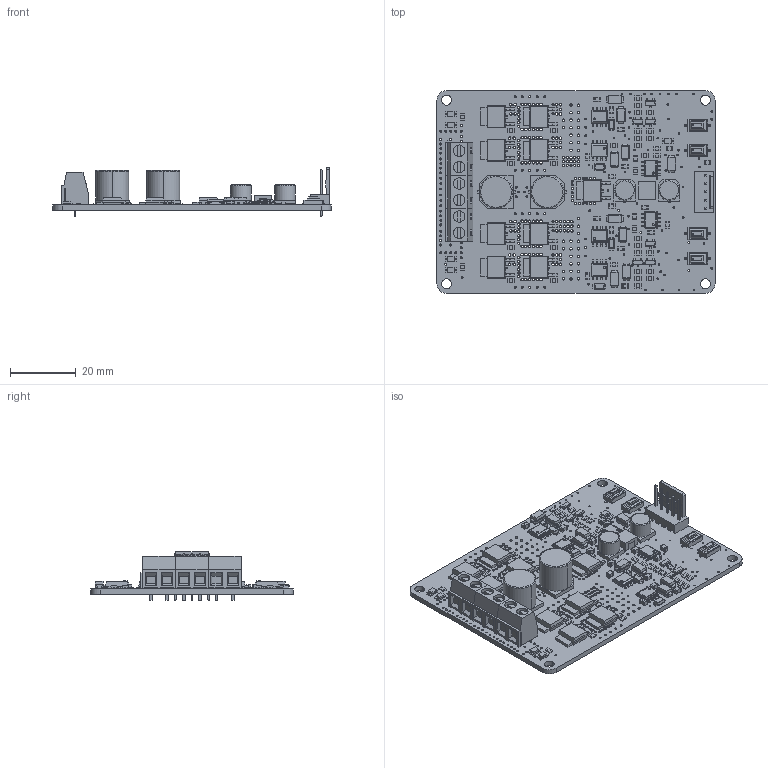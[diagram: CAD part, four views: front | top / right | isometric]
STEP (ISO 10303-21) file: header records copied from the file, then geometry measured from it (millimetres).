
FILE_DESCRIPTION (( 'STEP AP214' ), '1' );
FILE_NAME ('MDD10A REV2.STEP', '2018-08-14T10:10:32', ( '' ), ( '' ), 'SwSTEP 2.0', 'SolidWorks 2015', '' );
FILE_SCHEMA (( 'AUTOMOTIVE_DESIGN' ));
Length unit declared in the file: millimetre
Products named in the file (19): 2510 PCB Connector_05; MDD10A REV2; SOIC-08N; L-5852-CYL; 2012; PCB; CHEMICON-J; LED-3216; 2510 PCB Connector Base_05; 2510 PCB Pin; TERMINAL-KF127-2P_Black; S-SW-PBM-KAN0444; CHEMICON-F; 2012-CAP; TERMINAL-KF127-2P_Green; SOD-123; DPAK; SMA; SOT-23
Assembly tree (113 placements, depth 3):
  MDD10A REV2
    PCB
    CHEMICON-J  x2
    DPAK  x9
    CHEMICON-F  x2
    2012-CAP  x18
    2012  x36
    L-5852-CYL
    SOIC-08N  x6
    LED-3216  x5
    SMA  x9
    SOD-123  x4
    SOT-23  x6
    2510 PCB Connector_05
      2510 PCB Connector Base_05
      2510 PCB Pin  x5
    TERMINAL-KF127-2P_Black  x2
    TERMINAL-KF127-2P_Green
    S-SW-PBM-KAN0444  x4
Bounding box: 84.58 x 61.72 x 14.9 mm (x, y, z)
Volume: 13878.4 mm3; surface area: 19697.6 mm2
Topology: 168 solids, 168 shells, 5751 faces, 14594 edges, 8906 vertices
Faces by surface type: plane 3406, cylinder 1987, bspline 342, sphere 16
Entity records: 74376 total; most frequent: CARTESIAN_POINT 10445, DIRECTION 10169, ORIENTED_EDGE 9296, EDGE_CURVE 4648, AXIS2_PLACEMENT_3D 3824, VERTEX_POINT 3032, EDGE_LOOP 2588, LINE 2521
